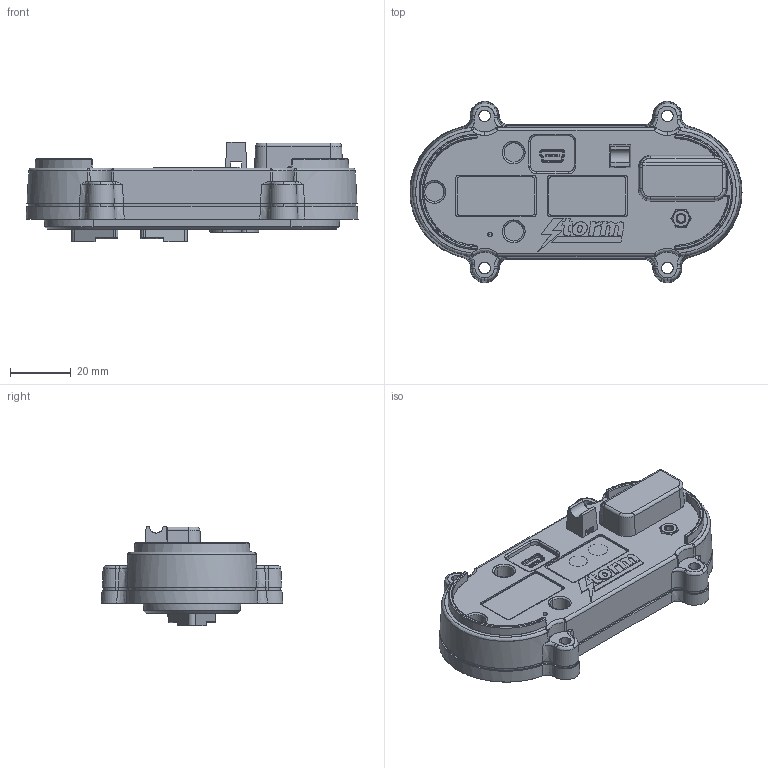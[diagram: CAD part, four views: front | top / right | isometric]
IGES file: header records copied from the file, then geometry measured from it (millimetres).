
Start section: SolidWorks IGES file using NURBS representation for surfaces
Global section: file name: C:\Users\anthonyc\OneDrive - Keymat Technology Ltd. (T A Storm Interface)\Desktop\Audio-Com Module (hor).IGS; native system: SolidWorks 2024; preprocessor: SolidWorks 2024; author: AnthonyC; date: 241111.150531; units: millimetre
Bounding box: 109 x 59.5 x 32.7 mm (x, y, z)
Surface area: 26129.4 mm2 (no closed solid volume)
Topology: 0 solids, 0 shells, 1158 faces, 11845 edges, 11837 vertices
Faces by surface type: bspline 1158
